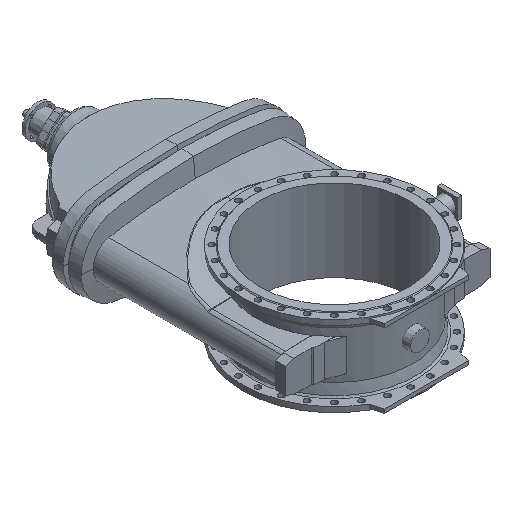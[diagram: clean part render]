
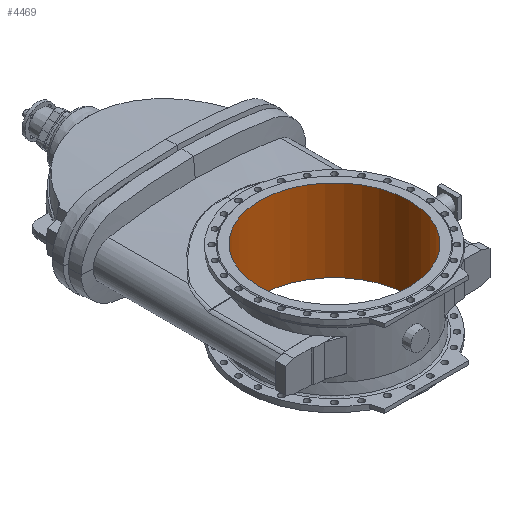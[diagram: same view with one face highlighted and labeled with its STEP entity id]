
A CAD part, isometric view. The second image highlights one B-rep face of the part: STEP entity #4469.
In plain terms, the highlighted cylindrical face has radius 500 mm (diameter 1000 mm), a full revolution.
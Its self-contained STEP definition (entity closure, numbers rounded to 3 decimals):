
#762 = CARTESIAN_POINT ( 'NONE',  ( 0., 0., -275. ) ) ;
#763 = DIRECTION ( 'NONE',  ( 0., 0., -1. ) ) ;
#764 = DIRECTION ( 'NONE',  ( 1., 0., 0. ) ) ;
#919 = CARTESIAN_POINT ( 'NONE',  ( 0., 0., 275. ) ) ;
#920 = DIRECTION ( 'NONE',  ( 0., 0., 1. ) ) ;
#921 = DIRECTION ( 'NONE',  ( 1., 0., 0. ) ) ;
#1534 = EDGE_CURVE ( 'NONE', #8823, #8823, #2353, .T. ) ;
#1552 = EDGE_CURVE ( 'NONE', #8829, #8829, #2380, .T. ) ;
#2353 = CIRCLE ( 'NONE', #15728, 500. ) ;
#2380 = CIRCLE ( 'NONE', #15735, 500. ) ;
#3711 = ORIENTED_EDGE ( 'NONE', *, *, #1552, .T. ) ;
#3713 = ORIENTED_EDGE ( 'NONE', *, *, #1534, .T. ) ;
#4469 = ADVANCED_FACE ( 'NONE', ( #8164, #8169 ), #8171, .F. ) ;
#5651 = EDGE_LOOP ( 'NONE', ( #3713 ) ) ;
#5652 = EDGE_LOOP ( 'NONE', ( #3711 ) ) ;
#7958 = DIRECTION ( 'NONE',  ( 1., 0., 0. ) ) ;
#7959 = CARTESIAN_POINT ( 'NONE',  ( 0., 0., -321.251 ) ) ;
#7960 = DIRECTION ( 'NONE',  ( 0., 0., 1. ) ) ;
#8164 = FACE_OUTER_BOUND ( 'NONE', #5652, .T. ) ;
#8169 = FACE_OUTER_BOUND ( 'NONE', #5651, .T. ) ;
#8171 = CYLINDRICAL_SURFACE ( 'NONE', #13947, 500. ) ;
#8823 = VERTEX_POINT ( 'NONE', #13399 ) ;
#8829 = VERTEX_POINT ( 'NONE', #13405 ) ;
#13399 = CARTESIAN_POINT ( 'NONE',  ( 500., 0., -275. ) ) ;
#13405 = CARTESIAN_POINT ( 'NONE',  ( 500., 0., 275. ) ) ;
#13947 = AXIS2_PLACEMENT_3D ( 'NONE', #7959, #7960, #7958 ) ;
#15728 = AXIS2_PLACEMENT_3D ( 'NONE', #762, #763, #764 ) ;
#15735 = AXIS2_PLACEMENT_3D ( 'NONE', #919, #920, #921 ) ;
